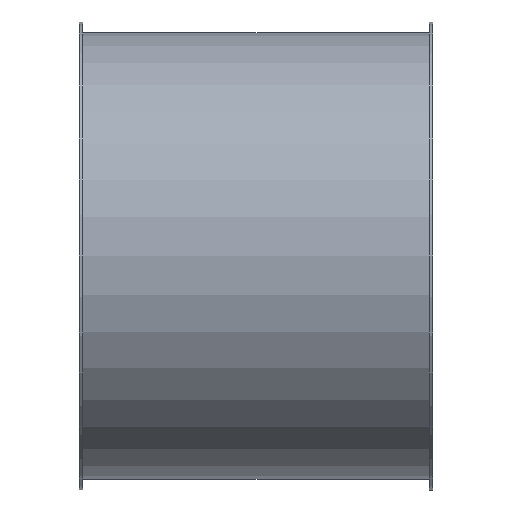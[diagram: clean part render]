
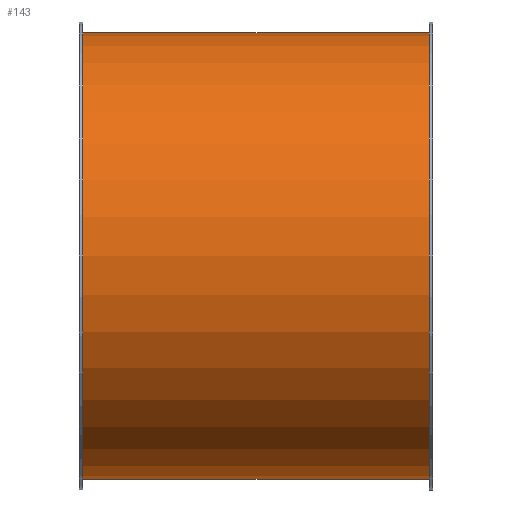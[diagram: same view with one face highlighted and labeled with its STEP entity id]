
A CAD part, front view. The second image highlights one B-rep face of the part: STEP entity #143.
In plain terms, the highlighted cylindrical face has radius 126.5 mm (diameter 253 mm), a full revolution.
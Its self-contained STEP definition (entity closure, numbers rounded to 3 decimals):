
#112=CARTESIAN_POINT('',(166.119,2.817,0.0));
#113=VERTEX_POINT('',#112);
#114=CARTESIAN_POINT('',(166.119,129.317,0.0));
#115=DIRECTION('',(-1.0,0.0,0.0));
#116=DIRECTION('',(0.0,-1.0,0.0));
#117=AXIS2_PLACEMENT_3D('',#114,#115,#116);
#118=CIRCLE('',#117,126.5);
#119=EDGE_CURVE('',#113,#113,#118,.T.);
#124=CARTESIAN_POINT('',(68.119,129.317,0.0));
#125=DIRECTION('',(-1.0,0.,0.0));
#126=DIRECTION('',(0.0,-1.0,0.0));
#127=AXIS2_PLACEMENT_3D('',#124,#125,#126);
#128=CYLINDRICAL_SURFACE('',#127,126.5);
#129=CARTESIAN_POINT('',(-29.881,2.817,0.0));
#130=VERTEX_POINT('',#129);
#131=CARTESIAN_POINT('',(-29.881,129.317,0.0));
#132=DIRECTION('',(-1.0,0.0,0.0));
#133=DIRECTION('',(0.0,-1.0,0.0));
#134=AXIS2_PLACEMENT_3D('',#131,#132,#133);
#135=CIRCLE('',#134,126.5);
#136=EDGE_CURVE('',#130,#130,#135,.T.);
#137=ORIENTED_EDGE('',*,*,#136,.F.);
#138=EDGE_LOOP('',(#137));
#139=FACE_OUTER_BOUND('',#138,.T.);
#140=ORIENTED_EDGE('',*,*,#119,.T.);
#141=EDGE_LOOP('',(#140));
#142=FACE_BOUND('',#141,.T.);
#143=ADVANCED_FACE('',(#139,#142),#128,.T.);
